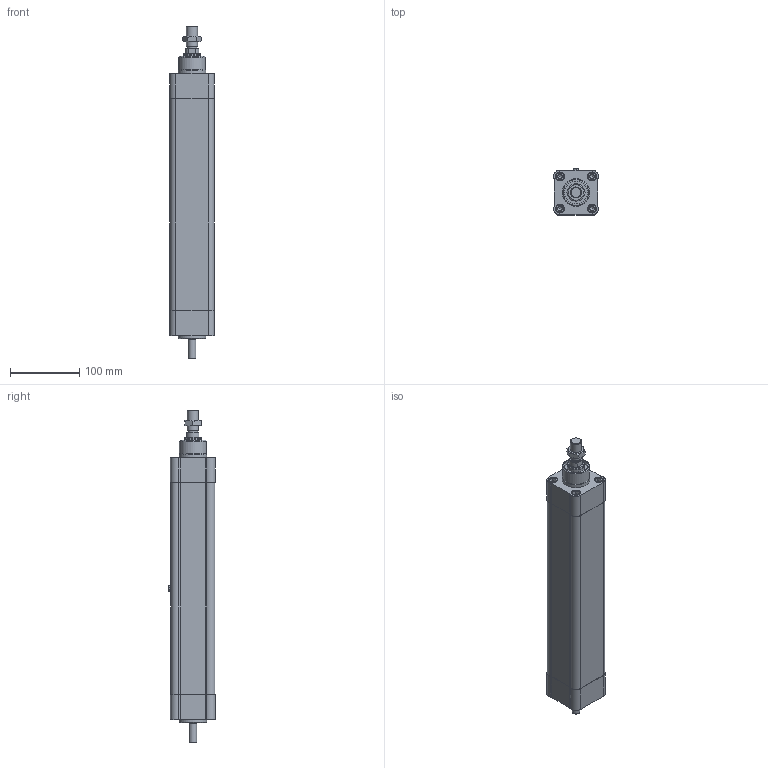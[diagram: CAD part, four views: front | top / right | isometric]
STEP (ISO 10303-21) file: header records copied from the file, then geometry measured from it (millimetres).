
FILE_DESCRIPTION(/* description */ ('STEP AP203'),/* implementation_level */ '2;1');
FILE_NAME(/* name */ 'PNCE 50 BS 2005 200 S(0)',/* time_stamp */ '2025-01-28T16:04:50+01:00',/* author */ ('License CC BY-ND 4.0'),/* organization */ ('CADENAS'),/* preprocessor_version */ 'ST-DEVELOPER v19.3',/* originating_system */ 'PARTsolutions',/* authorisation */ ' ');
FILE_SCHEMA (('CONFIG_CONTROL_DESIGN'));
Length unit declared in the file: millimetre
Products named in the file (6): PNCE 50 BS 2005 200 S(0); PNCE 50_drive cap; PNCE 50 200 S(0)_cylinder profil; PNCE 50_front cap; PNCE 50 200 S 0_piston rod; PNCE 50_nut
Assembly tree (5 placements, depth 2):
  PNCE 50 BS 2005 200 S(0)
    PNCE 50_drive cap
    PNCE 50 200 S(0)_cylinder profil
    PNCE 50_front cap
    PNCE 50 200 S 0_piston rod
    PNCE 50_nut
Bounding box: 64.97 x 67.5 x 481 mm (x, y, z)
Volume: 1206449.2 mm3; surface area: 266766.8 mm2
Topology: 5 solids, 5 shells, 261 faces, 582 edges, 381 vertices
Faces by surface type: plane 136, cylinder 91, cone 32, torus 2
Full cylindrical faces by diameter (mm): 5.3 x1, 6.647 x8, 6.7 x4, 8 x8, 8.566 x1, 8.7 x4, 10.6 x1, 11 x1, 12 x8, 13 x8, 14.2 x1, 14.376 x1, 16 x1, 24.8 x1, 25 x2, 31 x1, 33 x1, 39 x1, 40 x2, 49 x1, 50 x3
Entity records: 8357 total; most frequent: DIRECTION 1188, CARTESIAN_POINT 1180, ORIENTED_EDGE 930, AXIS2_PLACEMENT_3D 472, EDGE_CURVE 465, FACE_BOUND 425, EDGE_LOOP 416, VERTEX_POINT 364
